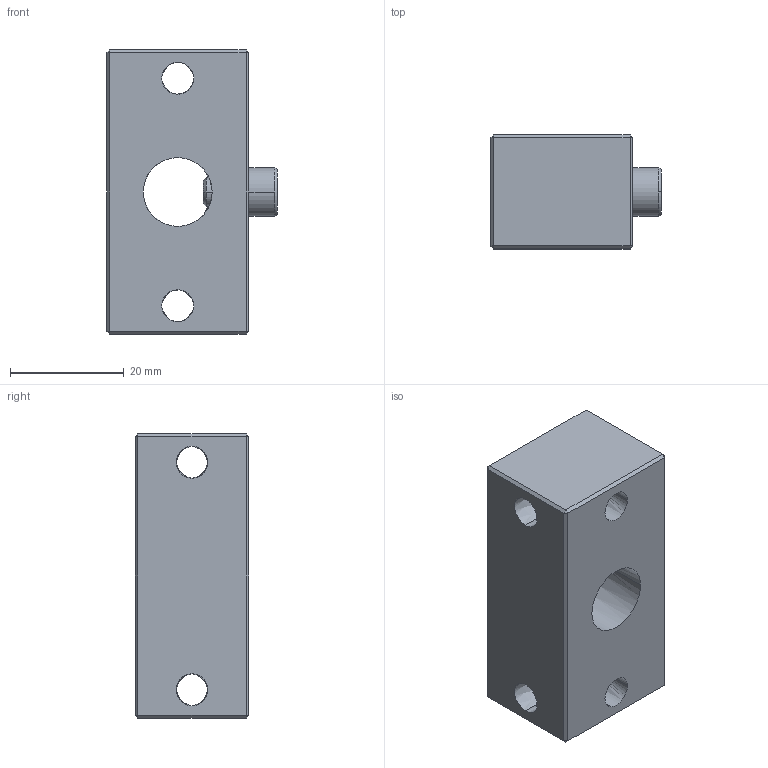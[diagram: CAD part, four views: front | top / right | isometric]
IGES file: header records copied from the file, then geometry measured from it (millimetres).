
Global section: file name: No Iges File Name specified; native system: Autodesk Inventor 2011; preprocessor: AutoDesk Inventor Iges Exporter R2011; author: ss; date: 20111206.103905; units: millimetre
Bounding box: 30 x 20 x 50 mm (x, y, z)
Volume: 20978.8 mm3; surface area: 7512.5 mm2
Topology: 2 solids, 2 shells, 67 faces, 164 edges, 96 vertices
Faces by surface type: plane 35, revolution 20, bspline 4, cylinder 4, torus 2, cone 2
